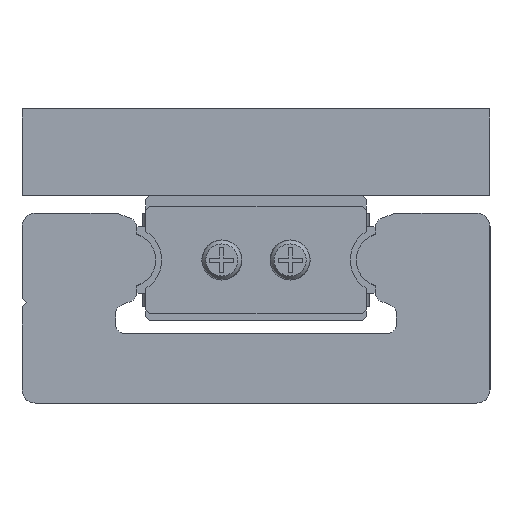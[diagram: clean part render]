
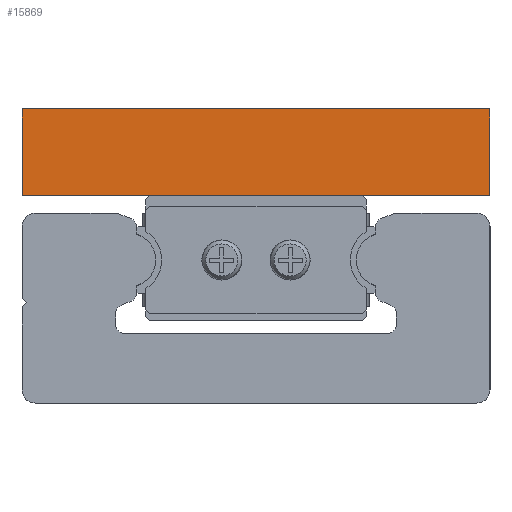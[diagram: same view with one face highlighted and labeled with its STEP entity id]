
A CAD part, left-side view. The second image highlights one B-rep face of the part: STEP entity #15869.
In plain terms, the highlighted planar face has unit normal (-1, 0, 0).
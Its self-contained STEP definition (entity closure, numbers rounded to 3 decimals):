
#15665=CARTESIAN_POINT('',(0.0,-17.5,11.3));
#15666=VERTEX_POINT('',#15665);
#15673=CARTESIAN_POINT('',(0.0,-17.5,4.8));
#15674=VERTEX_POINT('',#15673);
#15675=CARTESIAN_POINT('',(0.0,-17.5,11.3));
#15676=DIRECTION('',(0.0,0.0,-1.0));
#15677=VECTOR('',#15676,6.5);
#15678=LINE('',#15675,#15677);
#15679=EDGE_CURVE('',#15666,#15674,#15678,.T.);
#15709=CARTESIAN_POINT('',(0.0,17.5,11.3));
#15710=VERTEX_POINT('',#15709);
#15717=CARTESIAN_POINT('',(0.0,17.5,11.3));
#15718=DIRECTION('',(0.0,-1.0,0.0));
#15719=VECTOR('',#15718,35.0);
#15720=LINE('',#15717,#15719);
#15721=EDGE_CURVE('',#15710,#15666,#15720,.T.);
#15782=CARTESIAN_POINT('',(0.0,17.5,4.8));
#15783=VERTEX_POINT('',#15782);
#15790=CARTESIAN_POINT('',(0.0,17.5,4.8));
#15791=DIRECTION('',(0.0,0.0,1.0));
#15792=VECTOR('',#15791,6.5);
#15793=LINE('',#15790,#15792);
#15794=EDGE_CURVE('',#15783,#15710,#15793,.T.);
#15818=CARTESIAN_POINT('',(0.0,-17.5,4.8));
#15819=DIRECTION('',(0.0,1.0,0.0));
#15820=VECTOR('',#15819,35.0);
#15821=LINE('',#15818,#15820);
#15822=EDGE_CURVE('',#15674,#15783,#15821,.T.);
#15858=CARTESIAN_POINT('',(0.0,0.,8.05));
#15859=DIRECTION('',(1.0,0.0,0.0));
#15860=DIRECTION('',(0.0,0.0,-1.0));
#15861=AXIS2_PLACEMENT_3D('',#15858,#15859,#15860);
#15862=PLANE('',#15861);
#15863=ORIENTED_EDGE('',*,*,#15822,.F.);
#15864=ORIENTED_EDGE('',*,*,#15679,.F.);
#15865=ORIENTED_EDGE('',*,*,#15721,.F.);
#15866=ORIENTED_EDGE('',*,*,#15794,.F.);
#15867=EDGE_LOOP('',(#15863,#15864,#15865,#15866));
#15868=FACE_OUTER_BOUND('',#15867,.T.);
#15869=ADVANCED_FACE('',(#15868),#15862,.F.);
